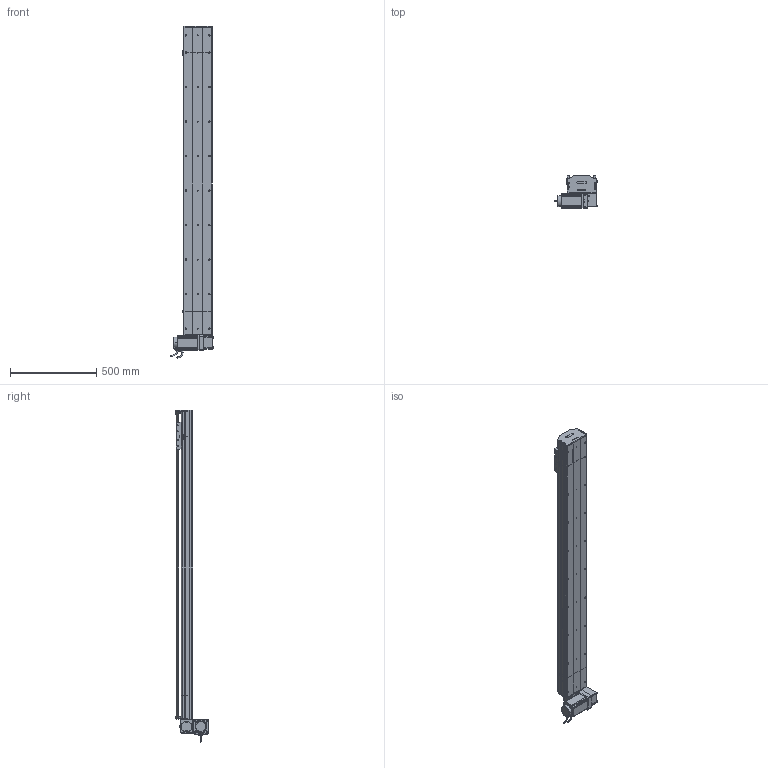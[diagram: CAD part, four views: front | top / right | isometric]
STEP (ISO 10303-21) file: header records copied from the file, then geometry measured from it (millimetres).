
FILE_DESCRIPTION (( 'STEP AP214' ), '1' );
FILE_NAME ('D17 TBH LU S1500.STEP', '2010-06-30T08:05:21', ( 'Christophe Gaillard' ), ( 'SGA' ), 'SwSTEP 2.0', 'SolidWorks 2010', '' );
FILE_SCHEMA (( 'AUTOMOTIVE_DESIGN' ));
Length unit declared in the file: millimetre
Products named in the file (40): D17 TBH LU S1500; Couroie+ rail D17 Course 1500 ; vis M5 L70_Default; corp D17B 1500_Default; Conecteur_Default; Conecteur2_Default; couvercle D17B course L1500_Default; codeur 90BLDC125-640; corps 90BLDC125A-640; avant 90BLDC125A-640; Head LU D17B_Default; plaque de  bout head D17B LU_Default; couvercle D17B head_Default; corpl head D17 _Default; couroie head D17_Default; cache arbre D17_Default; Moteur motionking 90BLDC125A-640; Renvoi LU_Default; Arbre+rail head D17B; poulie head_Default; vis M5 L5_Default; cache D17_Default; Plaque racord D17_Default; vis M5 L12_Default; vis M5 L16_Default; guide D17; Vis M5 L16-2_Default; vis M5 L25_Default; corp tail D17B+100_Default; Tail D17B+100_Default; Chariot D17; chariot D17S_Default; tete d''axe poulie D17B; vis M5 L8 90°_Default; couvercle D17B_Default; Couroie tail D17B_Default; poulie tail_Default; plaque de  bout tail D17B_Default; course 1500 D17B_Default; Rail D17B
Assembly tree (70 placements, depth 4):
  D17 TBH LU S1500
    course 1500 D17B_Default
      corp D17B 1500_Default
      Couroie+ rail D17 Course 1500 
      couvercle D17B course L1500_Default
    Head LU D17B_Default
      vis M5 L70_Default  x4
      vis M5 L12_Default  x8
      Vis M5 L16-2_Default  x4
      vis M5 L25_Default  x2
      corpl head D17 _Default
      cache D17_Default  x2
      Plaque racord D17_Default
      vis M5 L5_Default  x4
      vis M5 L16_Default  x2
      Arbre+rail head D17B
      couvercle D17B head_Default
      cache arbre D17_Default
      couroie head D17_Default
      poulie head_Default
      plaque de  bout head D17B LU_Default
      Moteur motionking 90BLDC125A-640
        codeur 90BLDC125-640
        corps 90BLDC125A-640
        Conecteur_Default
        avant 90BLDC125A-640
        Conecteur2_Default
      Renvoi LU_Default
    Tail D17B+100_Default
      vis M5 L25_Default  x2
      Couroie tail D17B_Default
      Rail D17B
      poulie tail_Default
      vis M5 L12_Default  x4
      corp tail D17B+100_Default
      vis M5 L8 90°_Default  x2
      tete d''axe poulie D17B
      plaque de  bout tail D17B_Default
      couvercle D17B_Default
    chariot D17S_Default
      guide D17  x2
      vis M5 L12_Default  x4
      Chariot D17
Bounding box: 245.2 x 188.65 x 1923.95 mm (x, y, z)
Volume: 11733024.2 mm3; surface area: 3328952.7 mm2
Topology: 94 solids, 94 shells, 2693 faces, 6795 edges, 4374 vertices
Faces by surface type: plane 1611, cylinder 769, bspline 136, cone 88, torus 85, sphere 4
Entity records: 84466 total; most frequent: CARTESIAN_POINT 24951, ORIENTED_EDGE 10362, DIRECTION 9830, EDGE_CURVE 5181, VECTOR 3456, LINE 3456, VERTEX_POINT 3398, AXIS2_PLACEMENT_3D 3187
